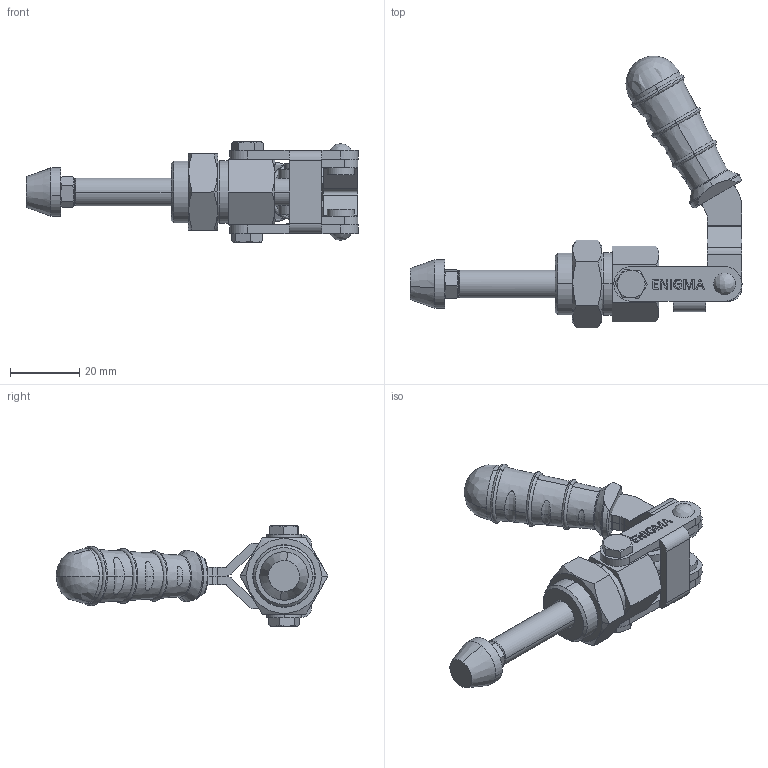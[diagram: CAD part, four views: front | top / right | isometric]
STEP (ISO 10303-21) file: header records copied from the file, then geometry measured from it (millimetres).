
FILE_DESCRIPTION (( 'STEP AP203' ), '1' );
FILE_NAME ('16008_T.STEP', '2022-11-27T21:23:37', ( '' ), ( '' ), 'SwSTEP 2.0', 'SolidWorks 2023', '' );
FILE_SCHEMA (( 'CONFIG_CONTROL_DESIGN' ));
Length unit declared in the file: millimetre
Products named in the file (13): 5x7_5_DOLU_PER_X2_00c70130_X0_N_Varsay_X2_0131_X0_lan; 4x17_5PER_X2_00c70130_X0_N_Varsay_X2_0131_X0_lan; M5 Somun_Varsay_X2_0131_X0_lan; 16008_MAFSAL_Varsay_X2_0131_X0_lan; Aynalama16008_HAREKET_KOLU_Varsay_X2_0131_X0_lan; M18x1_5x8_Kontra_Somun_Varsay_X2_0131_X0_lan; 16008_T; M5_BASKI_PABUCU_Varsay_X2_0131_X0_lan; 16008_Alt_X2_0131_X0_genG_X2_00f6_X0_vde_Varsay_X2_0131_X0_lan; 16008__X2_00d8_X0_8_Mil_Varsay_X2_0131_X0_lan; 16008_HAREKET_KOLU_Varsay_X2_0131_X0_lan; M4x5x10_Kademeli_Civata_Varsay_X2_0131_X0_lan; C40_Tutamak_Varsay_X2_0131_X0_lan
Assembly tree (14 placements, depth 2):
  16008_T
    16008_HAREKET_KOLU_Varsay_X2_0131_X0_lan
    16008_MAFSAL_Varsay_X2_0131_X0_lan
    16008_Alt_X2_0131_X0_genG_X2_00f6_X0_vde_Varsay_X2_0131_X0_lan
    16008__X2_00d8_X0_8_Mil_Varsay_X2_0131_X0_lan
    M4x5x10_Kademeli_Civata_Varsay_X2_0131_X0_lan  x2
    M18x1_5x8_Kontra_Somun_Varsay_X2_0131_X0_lan
    Aynalama16008_HAREKET_KOLU_Varsay_X2_0131_X0_lan
    5x7_5_DOLU_PER_X2_00c70130_X0_N_Varsay_X2_0131_X0_lan  x2
    C40_Tutamak_Varsay_X2_0131_X0_lan
    M5_BASKI_PABUCU_Varsay_X2_0131_X0_lan
    4x17_5PER_X2_00c70130_X0_N_Varsay_X2_0131_X0_lan
    M5 Somun_Varsay_X2_0131_X0_lan
Bounding box: 95.9 x 78.55 x 29 mm (x, y, z)
Volume: 26356.5 mm3; surface area: 19223.4 mm2
Topology: 14 solids, 14 shells, 496 faces, 1245 edges, 793 vertices
Faces by surface type: plane 211, cylinder 115, bspline 92, cone 78
Entity records: 22995 total; most frequent: CARTESIAN_POINT 10752, ORIENTED_EDGE 2346, DIRECTION 2094, EDGE_CURVE 1173, VERTEX_POINT 752, AXIS2_PLACEMENT_3D 733, VECTOR 628, LINE 628
